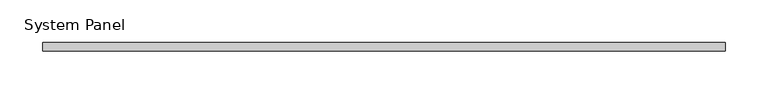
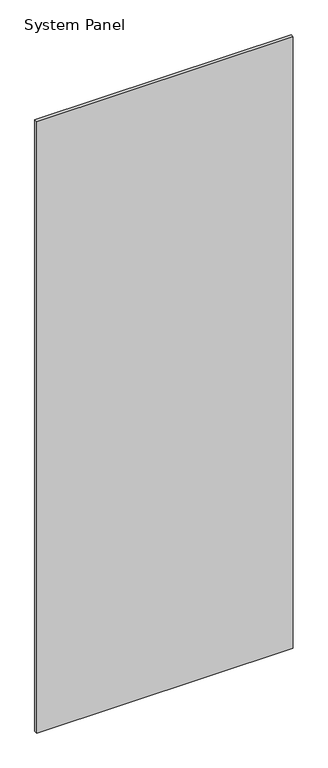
"""IFC4 building model written with IfcOpenShell, lengths in millimetres: plate geometry, System Panel : стекло_смещение_0."""

from ifc_helpers import new_model, si_unit, origin, origin_with_axes, place, context, project, spatial, polyline, outline, extrude, source, transform, mapped, element, save


def system_panel_1896bae7(model_context):
    return source(origin(), model_context, "Body", "SweptSolid", [
        extrude(outline(polyline([(400.0, -5.0), (-400.0, -5.0), (-400.0, 5.0), (400.0, 5.0), (400.0, -5.0)])), origin_with_axes(), (0.0, 0.0, 1.0), 2015.0),
    ])


if __name__ == "__main__":
    model = new_model("IFC4")
    model_context = context("Model", 3, world=origin())
    ifc_project = project(units=[si_unit("LENGTHUNIT", "METRE", prefix="MILLI")], contexts=[model_context])
    site = spatial("IfcSite", under=ifc_project)
    building = spatial("IfcBuilding", under=site)
    placement = place(None, origin())
    system_panel_shape = system_panel_1896bae7(model_context)
    element("IfcPlate", 1, ObjectType="System Panel : стекло_смещение_0", at=placement, inside=building, context=model_context, shape_type="MappedRepresentation", body=[
        mapped(system_panel_shape, transform((0.0, 0.0, 0.0), x_axis=(1.0, 0.0, 0.0), y_axis=(0.0, 1.0, 0.0), z_axis=(0.0, 0.0, 1.0))),
    ])
    save(model, "model.ifc")
